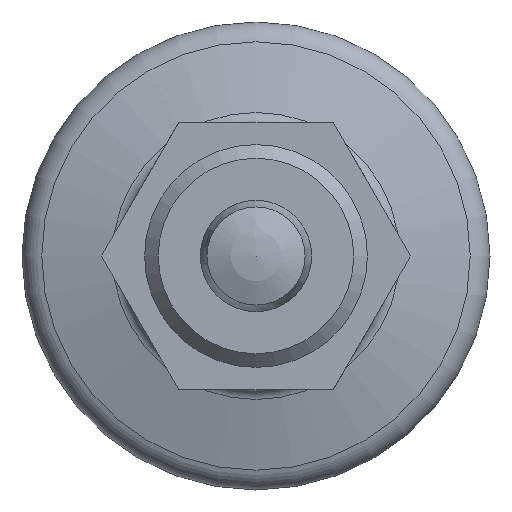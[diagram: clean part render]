
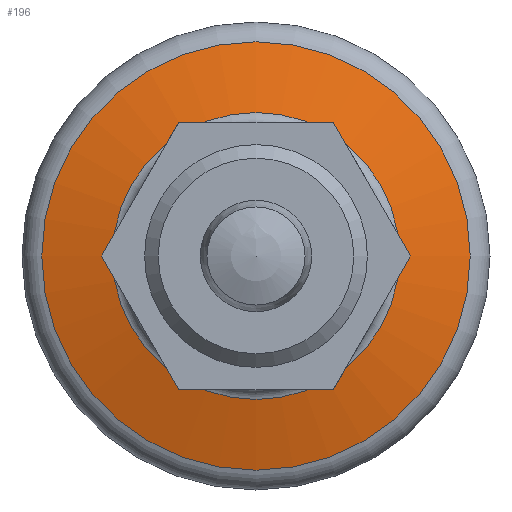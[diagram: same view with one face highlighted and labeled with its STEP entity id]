
A CAD part, front view. The second image highlights one B-rep face of the part: STEP entity #196.
In plain terms, the highlighted conical face has half-angle 75 degrees and reference radius 9.611 mm.
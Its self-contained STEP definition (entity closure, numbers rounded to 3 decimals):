
#196 = ADVANCED_FACE( '', ( #278, #279 ), #280, .T. );
#278 = FACE_BOUND( '', #415, .T. );
#279 = FACE_OUTER_BOUND( '', #416, .T. );
#280 = CONICAL_SURFACE( '', #417, 9.611, 1.309 );
#415 = EDGE_LOOP( '', ( #614 ) );
#416 = EDGE_LOOP( '', ( #615 ) );
#417 = AXIS2_PLACEMENT_3D( '', #616, #617, #618 );
#614 = ORIENTED_EDGE( '', *, *, #714, .F. );
#615 = ORIENTED_EDGE( '', *, *, #713, .T. );
#616 = CARTESIAN_POINT( '', ( 34.762, 0., 0. ) );
#617 = DIRECTION( '', ( 1., 0., 0. ) );
#618 = DIRECTION( '', ( 0., 1., 0. ) );
#713 = EDGE_CURVE( '', #799, #799, #800, .T. );
#714 = EDGE_CURVE( '', #801, #801, #802, .T. );
#799 = VERTEX_POINT( '', #967 );
#800 = CIRCLE( '', #968, 9.611 );
#801 = VERTEX_POINT( '', #969 );
#802 = CIRCLE( '', #970, 6.44 );
#967 = CARTESIAN_POINT( '', ( 34.762, -9.611, 0. ) );
#968 = AXIS2_PLACEMENT_3D( '', #1058, #1059, #1060 );
#969 = CARTESIAN_POINT( '', ( 33.912, -6.44, 0. ) );
#970 = AXIS2_PLACEMENT_3D( '', #1061, #1062, #1063 );
#1058 = CARTESIAN_POINT( '', ( 34.762, 0., 0. ) );
#1059 = DIRECTION( '', ( -1., 0., 0. ) );
#1060 = DIRECTION( '', ( 0., -1., 0. ) );
#1061 = CARTESIAN_POINT( '', ( 33.912, 0., 0. ) );
#1062 = DIRECTION( '', ( -1., 0., 0. ) );
#1063 = DIRECTION( '', ( 0., -1., 0. ) );
